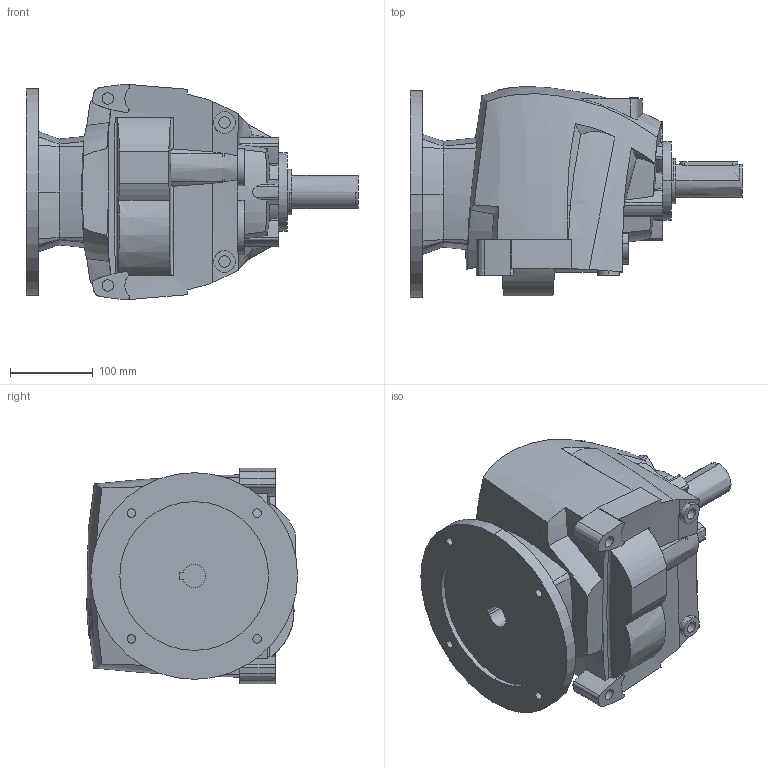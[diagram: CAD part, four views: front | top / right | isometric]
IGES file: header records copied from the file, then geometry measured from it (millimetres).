
Start section:  PTC IGES file: r40_unv_pam100112.igs
Global section: file name: r40_unv_pam100112.igs; native system: Pro/ENGINEER by Parametric Technology Corporation; preprocessor: 2008230; author: Luca; organization: Unknown; date: 20131127.011354; units: millimetre
Bounding box: 401.5 x 255.36 x 260.56 mm (x, y, z)
Volume: 11381137.1 mm3; surface area: 418070 mm2
Topology: 1 solids, 1 shells, 423 faces, 1181 edges, 794 vertices
Faces by surface type: bspline 204, revolution 182, extrusion 37
